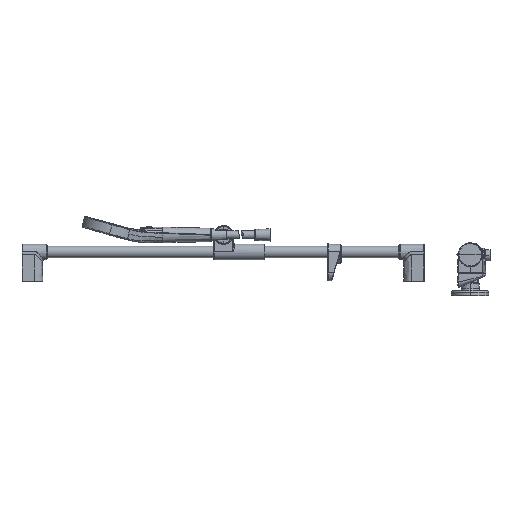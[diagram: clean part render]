
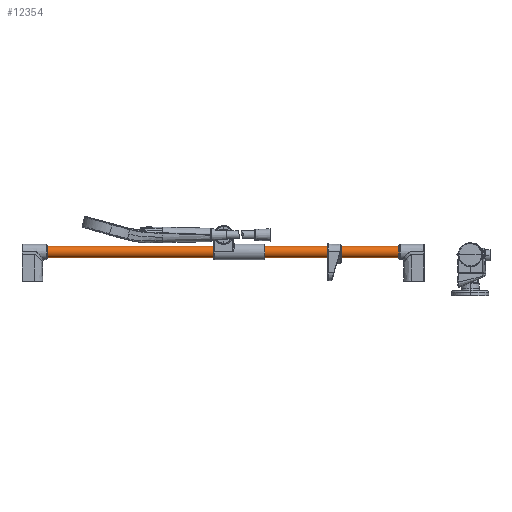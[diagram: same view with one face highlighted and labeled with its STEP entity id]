
A CAD part, left-side view. The second image highlights one B-rep face of the part: STEP entity #12354.
In plain terms, the highlighted cylindrical face has radius 10.95 mm (diameter 21.9 mm), a partial arc.
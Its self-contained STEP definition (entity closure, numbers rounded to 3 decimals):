
#819 = ORIENTED_EDGE ( 'NONE', *, *, #46082, .F. ) ;
#1360 = VERTEX_POINT ( 'NONE', #60492 ) ;
#4506 = DIRECTION ( 'NONE',  ( 0., -1., 0. ) ) ;
#6619 = CARTESIAN_POINT ( 'NONE',  ( 0., 343.7, 10.95 ) ) ;
#9325 = DIRECTION ( 'NONE',  ( 0., -1., 0. ) ) ;
#12354 = ADVANCED_FACE ( 'NONE', ( #41007 ), #57968, .T. ) ;
#13722 = EDGE_CURVE ( 'NONE', #49927, #21018, #40580, .T. ) ;
#14743 = EDGE_CURVE ( 'NONE', #1360, #48941, #46278, .T. ) ;
#15211 = DIRECTION ( 'NONE',  ( 0., 0., 1. ) ) ;
#15397 = ORIENTED_EDGE ( 'NONE', *, *, #64794, .T. ) ;
#19028 = DIRECTION ( 'NONE',  ( 0., 0., -1. ) ) ;
#21018 = VERTEX_POINT ( 'NONE', #30464 ) ;
#25113 = DIRECTION ( 'NONE',  ( 0., -1., 0. ) ) ;
#29460 = DIRECTION ( 'NONE',  ( 0., 0., -1. ) ) ;
#30464 = CARTESIAN_POINT ( 'NONE',  ( 0., -416.3, -10.95 ) ) ;
#34080 = ORIENTED_EDGE ( 'NONE', *, *, #14743, .T. ) ;
#36451 = VECTOR ( 'NONE', #58193, 1000. ) ;
#36758 = CARTESIAN_POINT ( 'NONE',  ( 0., 343.7, 0. ) ) ;
#36896 = EDGE_LOOP ( 'NONE', ( #34080, #15397, #50267, #819 ) ) ;
#37248 = AXIS2_PLACEMENT_3D ( 'NONE', #58066, #9325, #29460 ) ;
#40580 = CIRCLE ( 'NONE', #54137, 10.95 ) ;
#41007 = FACE_OUTER_BOUND ( 'NONE', #36896, .T. ) ;
#41683 = AXIS2_PLACEMENT_3D ( 'NONE', #36758, #25113, #15211 ) ;
#42614 = CARTESIAN_POINT ( 'NONE',  ( 0., 343.7, -10.95 ) ) ;
#46082 = EDGE_CURVE ( 'NONE', #1360, #49927, #59995, .T. ) ;
#46278 = CIRCLE ( 'NONE', #37248, 10.95 ) ;
#48941 = VERTEX_POINT ( 'NONE', #58687 ) ;
#49730 = DIRECTION ( 'NONE',  ( 0., -1., 0. ) ) ;
#49927 = VERTEX_POINT ( 'NONE', #59987 ) ;
#50267 = ORIENTED_EDGE ( 'NONE', *, *, #13722, .F. ) ;
#52910 = CARTESIAN_POINT ( 'NONE',  ( 0., -416.3, 0. ) ) ;
#54137 = AXIS2_PLACEMENT_3D ( 'NONE', #52910, #4506, #19028 ) ;
#57968 = CYLINDRICAL_SURFACE ( 'NONE', #41683, 10.95 ) ;
#58066 = CARTESIAN_POINT ( 'NONE',  ( 0., 343.7, 0. ) ) ;
#58193 = DIRECTION ( 'NONE',  ( 0., -1., 0. ) ) ;
#58646 = VECTOR ( 'NONE', #49730, 1000. ) ;
#58687 = CARTESIAN_POINT ( 'NONE',  ( 0., 343.7, -10.95 ) ) ;
#59987 = CARTESIAN_POINT ( 'NONE',  ( 0., -416.3, 10.95 ) ) ;
#59995 = LINE ( 'NONE', #6619, #58646 ) ;
#60492 = CARTESIAN_POINT ( 'NONE',  ( 0., 343.7, 10.95 ) ) ;
#61038 = LINE ( 'NONE', #42614, #36451 ) ;
#64794 = EDGE_CURVE ( 'NONE', #48941, #21018, #61038, .T. ) ;
